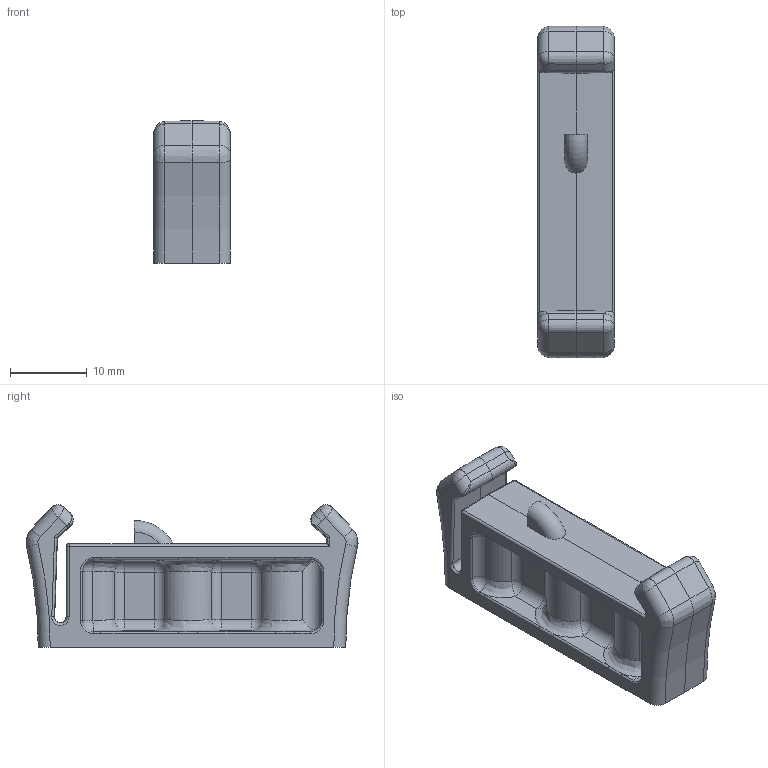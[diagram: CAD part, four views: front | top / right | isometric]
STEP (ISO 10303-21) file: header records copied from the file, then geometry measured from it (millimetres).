
FILE_DESCRIPTION(/* description */ (''),/* implementation_level */ '2;1');
FILE_NAME(/* name */ 'C:/Users/Leo/Desktop/DIN-RAIL-CLIP Model3d LPV1.step',/* time_stamp */ '2021-03-26T11:39:16-04:00',/* author */ (''),/* organization */ (''),/* preprocessor_version */ 'ST-DEVELOPER v18.1',/* originating_system */ 'Autodesk Translation Framework v9.10.0.1330',/* authorisation */ '');
FILE_SCHEMA (('AUTOMOTIVE_DESIGN { 1 0 10303 214 3 1 1 }'));
Length unit declared in the file: millimetre
Products named in the file (2): DIN-RAIL-CLIP; Component1
Assembly tree (1 placements, depth 2):
  DIN-RAIL-CLIP
    Component1
Bounding box: 10 x 43.19 x 18.54 mm (x, y, z)
Volume: 4097.7 mm3; surface area: 3096.6 mm2
Topology: 1 solids, 1 shells, 211 faces, 475 edges, 260 vertices
Faces by surface type: cylinder 73, plane 44, bspline 40, sphere 22, cone 21, torus 11
Full cylindrical faces by diameter (mm): 2.271 x3
Entity records: 7041 total; most frequent: CARTESIAN_POINT 2460, DIRECTION 977, ORIENTED_EDGE 928, EDGE_CURVE 464, AXIS2_PLACEMENT_3D 395, VERTEX_POINT 260, EDGE_LOOP 216, FACE_OUTER_BOUND 211
